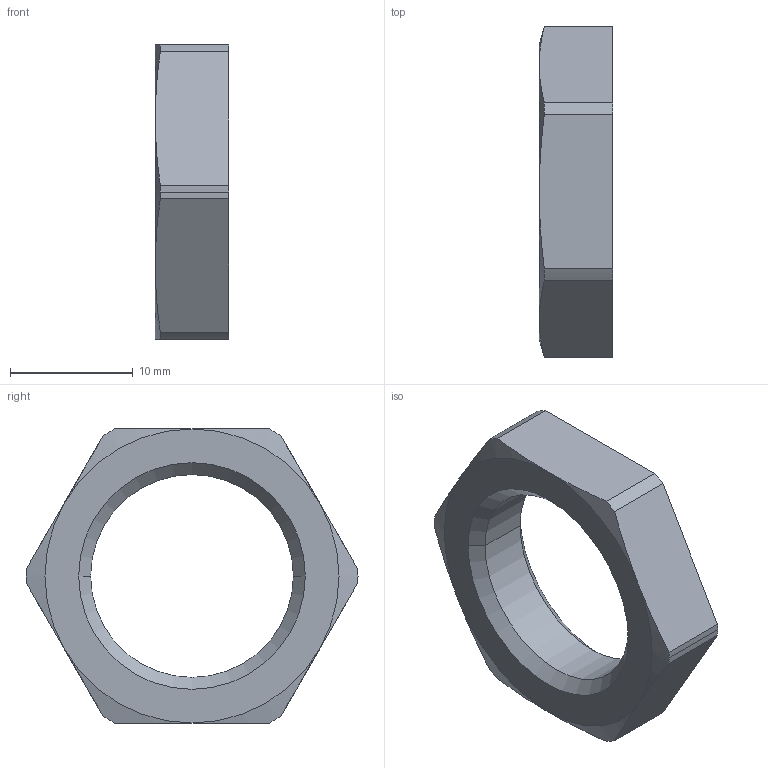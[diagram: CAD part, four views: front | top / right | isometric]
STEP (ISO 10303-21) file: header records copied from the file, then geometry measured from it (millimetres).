
FILE_DESCRIPTION((''),'2;1');
FILE_NAME('108707.0.stp','2007-11-06T08:53:09',(''),(''),'AutoCAD STEP 2000i','AutoCAD 2000i',', , ');
FILE_SCHEMA(('CONFIG_CONTROL_DESIGN'));
Length unit declared in the file: millimetre
Products named in the file (2): 108707.0; CHIAVE SMUSSX1036#0
Assembly tree (1 placements, depth 2):
  108707.0
    CHIAVE SMUSSX1036#0
Bounding box: 6 x 27.1 x 24 mm (x, y, z)
Volume: 1638.4 mm3; surface area: 1301.3 mm2
Topology: 1 solids, 1 shells, 28 faces, 68 edges, 42 vertices
Faces by surface type: cylinder 10, cone 10, plane 8
Entity records: 923 total; most frequent: CARTESIAN_POINT 164, DIRECTION 146, ORIENTED_EDGE 136, EDGE_CURVE 68, AXIS2_PLACEMENT_3D 60, VERTEX_POINT 42, CIRCLE 30, EDGE_LOOP 30
